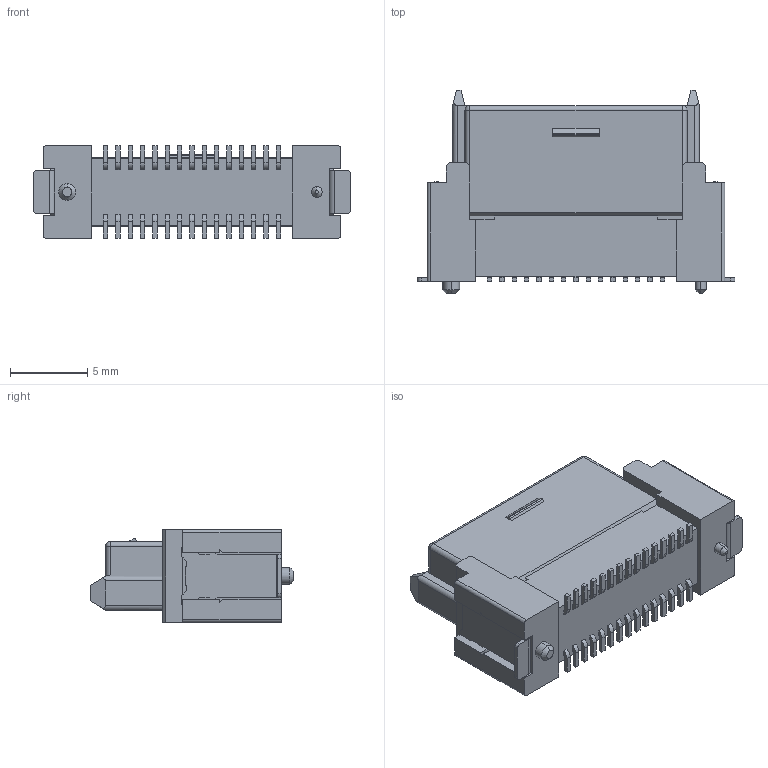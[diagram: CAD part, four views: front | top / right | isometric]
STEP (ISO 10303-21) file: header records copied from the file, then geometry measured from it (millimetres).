
FILE_DESCRIPTION (( 'STEP AP203' ), '1' );
FILE_NAME ('DFJ-RC030-S831114D(M)-FA.STEP', '2021-09-14T07:34:07', ( '' ), ( '' ), 'SwSTEP 2.0', 'SolidWorks 2018', '' );
FILE_SCHEMA (( 'CONFIG_CONTROL_DESIGN' ));
Length unit declared in the file: millimetre
Products named in the file (1): DFJ-RC030-S831114D(M)-FA
Bounding box: 20.6 x 13.2 x 6 mm (x, y, z)
Volume: 824 mm3; surface area: 1019 mm2
Topology: 1 solids, 1 shells, 713 faces, 2005 edges, 1326 vertices
Faces by surface type: plane 487, cylinder 219, cone 4, sphere 2, bspline 1
Entity records: 22873 total; most frequent: CARTESIAN_POINT 4850, ORIENTED_EDGE 4006, DIRECTION 3361, EDGE_CURVE 2003, LINE 1555, VECTOR 1555, VERTEX_POINT 1326, AXIS2_PLACEMENT_3D 903
